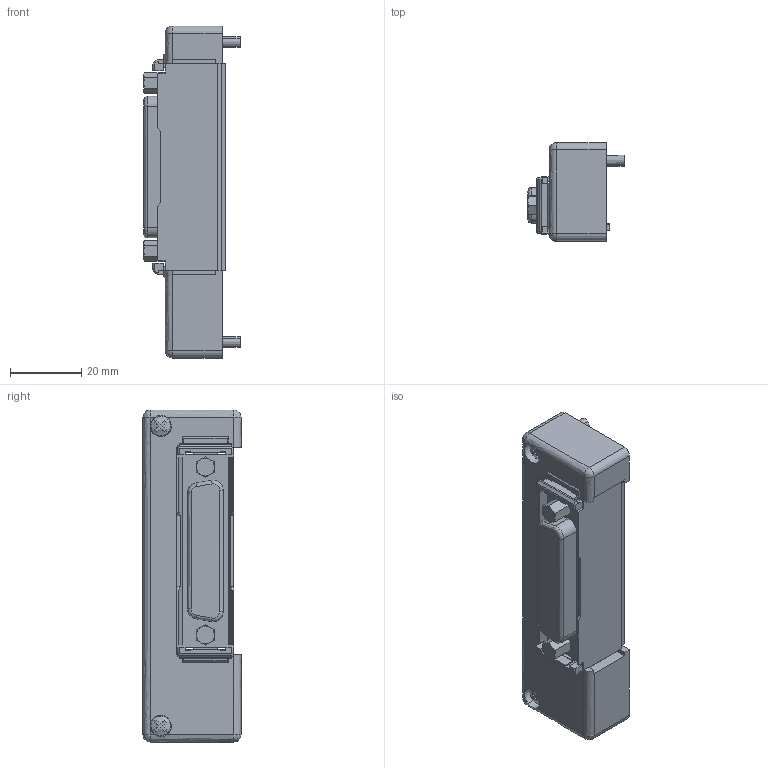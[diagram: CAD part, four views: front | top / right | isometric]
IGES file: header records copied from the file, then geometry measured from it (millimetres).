
Start section: ------------------------------------------------------------------------
Global section: file name: D:\ICADMX\tmp\trans3d_spg\CVICAD46.2900.FZX-D2x0-EN_31141.igs; native system: spGate; preprocessor: ver12.6.6; author: Unknown; organization: Unknown; date: 200902.143733; units: millimetre
Bounding box: 27 x 27.5 x 93 mm (x, y, z)
Volume: 35992.8 mm3; surface area: 14069.7 mm2
Topology: 2 solids, 2 shells, 309 faces, 882 edges, 560 vertices
Faces by surface type: bspline 309
